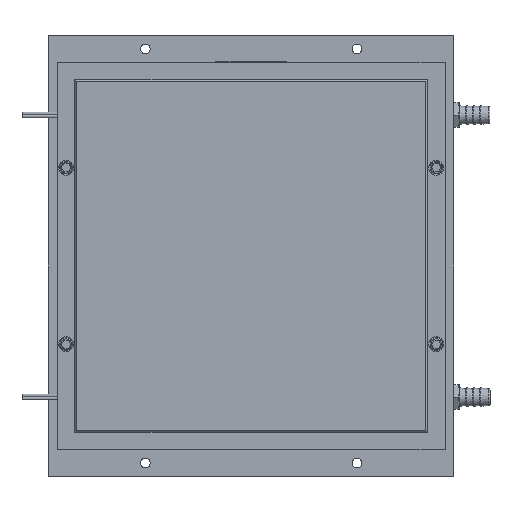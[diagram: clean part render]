
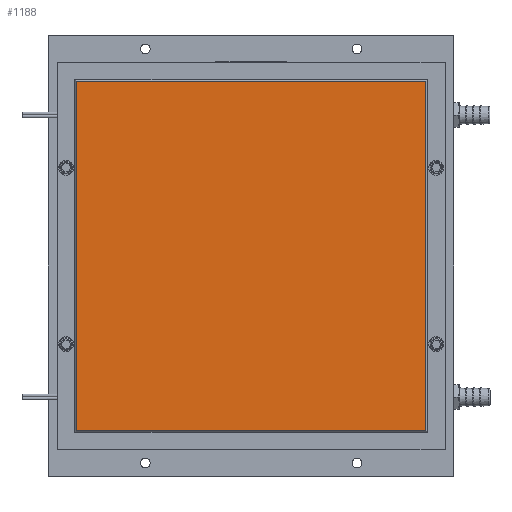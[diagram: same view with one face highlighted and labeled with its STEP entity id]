
A CAD part, top view. The second image highlights one B-rep face of the part: STEP entity #1188.
In plain terms, the highlighted planar face has unit normal (0, 0, 1).
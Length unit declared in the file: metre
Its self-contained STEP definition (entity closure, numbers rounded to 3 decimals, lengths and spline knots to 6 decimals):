
#1188=ADVANCED_FACE('0:574',(#2480),#2481,.T.);
#2480=FACE_OUTER_BOUND('',#4008,.T.);
#2481=PLANE('',#4009);
#4008=EDGE_LOOP('',(#6409,#6410,#6411,#6412));
#4009=AXIS2_PLACEMENT_3D('',#6413,#6414,#6415);
#6409=ORIENTED_EDGE('',*,*,#8921,.F.);
#6410=ORIENTED_EDGE('',*,*,#8941,.F.);
#6411=ORIENTED_EDGE('',*,*,#8934,.F.);
#6412=ORIENTED_EDGE('',*,*,#8938,.F.);
#6413=CARTESIAN_POINT('',(0.0,0.0,0.003));
#6414=DIRECTION('',(0.0,0.0,1.0));
#6415=DIRECTION('',(1.0,0.,0.0));
#8921=EDGE_CURVE('1:1815',#10495,#10497,#10498,.T.);
#8934=EDGE_CURVE('1:1827',#10516,#10518,#10519,.T.);
#8938=EDGE_CURVE('1:1821',#10497,#10516,#10523,.T.);
#8941=EDGE_CURVE('1:1833',#10518,#10495,#10526,.T.);
#10495=VERTEX_POINT('',#12665);
#10497=VERTEX_POINT('',#12668);
#10498=LINE('',#12669,#12670);
#10516=VERTEX_POINT('',#12696);
#10518=VERTEX_POINT('',#12699);
#10519=LINE('',#12700,#12701);
#10523=LINE('',#12707,#12708);
#10526=LINE('',#12712,#12713);
#12665=CARTESIAN_POINT('',(0.199,0.199,0.003));
#12668=CARTESIAN_POINT('',(0.199,0.001,0.003));
#12669=CARTESIAN_POINT('',(0.199,0.05,0.003));
#12670=VECTOR('',#15018,1.0);
#12696=CARTESIAN_POINT('',(0.001,0.001,0.003));
#12699=CARTESIAN_POINT('',(0.001,0.199,0.003));
#12700=CARTESIAN_POINT('',(0.001,0.05,0.003));
#12701=VECTOR('',#15028,1.0);
#12707=CARTESIAN_POINT('',(0.05,0.001,0.003));
#12708=VECTOR('',#15031,1.0);
#12712=CARTESIAN_POINT('',(0.05,0.199,0.003));
#12713=VECTOR('',#15033,1.0);
#15018=DIRECTION('',(0.0,-1.0,0.0));
#15028=DIRECTION('',(0.0,1.0,0.0));
#15031=DIRECTION('',(-1.0,0.0,0.0));
#15033=DIRECTION('',(1.0,0.0,0.0));
